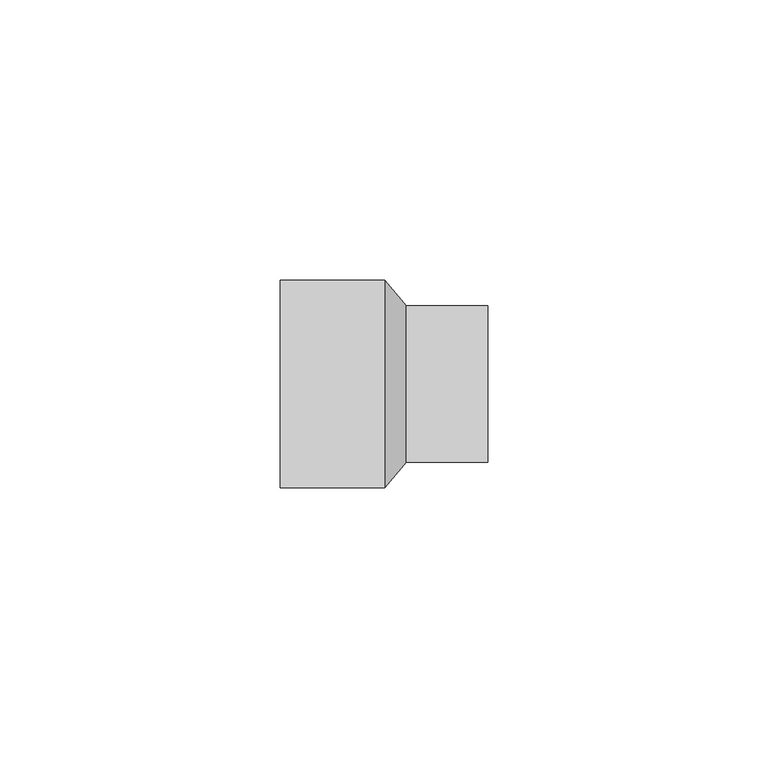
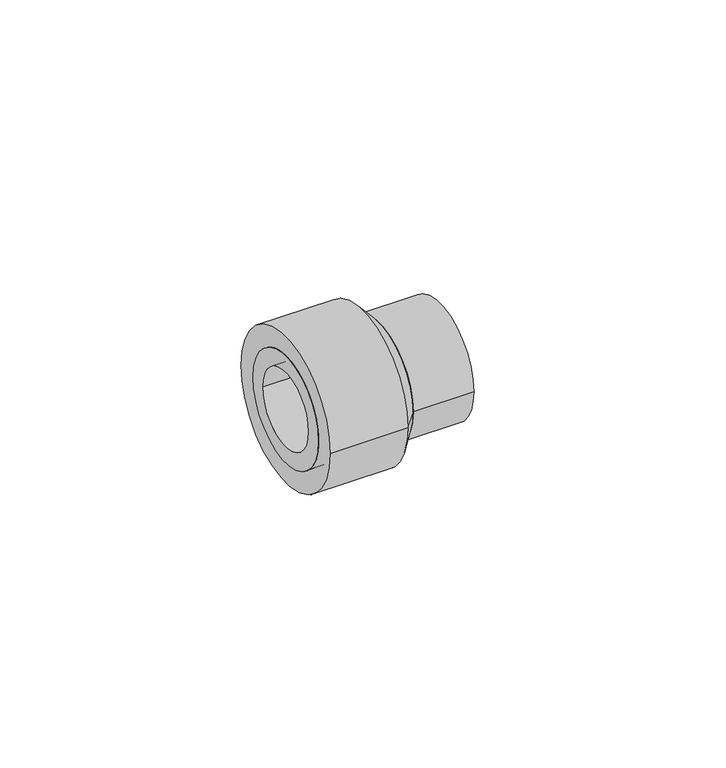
"""IFC4 building model written with IfcOpenShell, lengths in millimetres: pipe fitting geometry, 19_Муфта комбинированная BP : Белый цвет."""

from ifc_helpers import new_model, si_unit, point, frame, origin, origin_2d, place, context, project, spatial, polyline, circle_curve, trimmed, segment, composite_curve, outline, extrude, source, transform, mapped, element, save
from ifc_brep_helpers import plane_surface, revolved_surface, advanced_brep


def pipe_fitting_c594902a(model_context):
    return source(origin(), model_context, "Body", "SolidModel", [
        extrude(outline(composite_curve([segment(trimmed(circle_curve(origin_2d(), 13.5), [point((13.5, 0.0))], [point((-13.5, 0.0))], False, "CARTESIAN"), True, "CONTINUOUS"), segment(trimmed(circle_curve(origin_2d(), 13.5), [point((-13.5, 0.0))], [point((13.5, 0.0))], False, "CARTESIAN"), True, "CONTINUOUS")], self_intersect=False), holes=[composite_curve([segment(trimmed(circle_curve(origin_2d(), 9.4), [point((9.4, 0.0))], [point((-9.4, 0.0))], True, "CARTESIAN"), True, "CONTINUOUS"), segment(trimmed(circle_curve(origin_2d(), 9.4), [point((-9.4, 0.0))], [point((9.4, 0.0))], True, "CARTESIAN"), True, "CONTINUOUS")], self_intersect=False)]), frame((-18.5, 0.0, 0.0), z_axis=(1.0, 0.0, 0.0), x_axis=(0.0, 1.0, 0.0)), (0.0, 0.0, 1.0), 17.5),
        extrude(outline(composite_curve([segment(trimmed(circle_curve(origin_2d(), 14.0), [point((-14.0, 0.0))], [point((14.0, 0.0))], False, "CARTESIAN"), True, "CONTINUOUS"), segment(trimmed(circle_curve(origin_2d(), 14.0), [point((14.0, 0.0))], [point((-14.0, 0.0))], False, "CARTESIAN"), True, "CONTINUOUS")], self_intersect=False), holes=[composite_curve([segment(trimmed(circle_curve(origin_2d(), 10.0), [point((-10.0, 0.0))], [point((10.0, 0.0))], True, "CARTESIAN"), True, "CONTINUOUS"), segment(trimmed(circle_curve(origin_2d(), 10.0), [point((10.0, 0.0))], [point((-10.0, 0.0))], True, "CARTESIAN"), True, "CONTINUOUS")], self_intersect=False)]), frame((4.0, 0.0, 0.0), z_axis=(1.0, 0.0, 0.0), x_axis=(0.0, 1.0, 0.0)), (0.0, 0.0, 1.0), 14.5),
        extrude(outline(composite_curve([segment(trimmed(circle_curve(origin_2d(), 18.5), [point((-18.5, 0.0))], [point((18.5, 0.0))], False, "CARTESIAN"), True, "CONTINUOUS"), segment(trimmed(circle_curve(origin_2d(), 18.5), [point((18.5, 0.0))], [point((-18.5, 0.0))], False, "CARTESIAN"), True, "CONTINUOUS")], self_intersect=False), holes=[composite_curve([segment(trimmed(circle_curve(origin_2d(), 13.5), [point((-13.5, 0.0))], [point((13.5, 0.0))], True, "CARTESIAN"), True, "CONTINUOUS"), segment(trimmed(circle_curve(origin_2d(), 13.5), [point((13.5, 0.0))], [point((-13.5, 0.0))], True, "CARTESIAN"), True, "CONTINUOUS")], self_intersect=False)]), frame((-18.5, 0.0, 0.0), z_axis=(1.0, 0.0, 0.0), x_axis=(0.0, 1.0, 0.0)), (0.0, 0.0, 1.0), 18.6),
        advanced_brep(
        [(4.0, -14.0, 0.0), (4.0, 14.0, 0.0), (4.0, 10.0, 0.0), (4.0, -10.0, 0.0), (0.1, -18.5, 0.0), (0.1, 18.5, 0.0), (0.1, -13.5, 0.0), (0.1, 13.5, 0.0)],
        [
            (0, 1, circle_curve(frame((4.0, 0.0, 0.0), z_axis=(1.0, -2.1713905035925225e-12, 0.0), x_axis=(-2.171408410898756e-12, -1.0, 0.0)), 14.0)),
            (1, 0, circle_curve(frame((4.0, 0.0, 0.0), z_axis=(1.0, -2.1713905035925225e-12, 0.0), x_axis=(2.171408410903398e-12, 1.0, 0.0)), 14.0)),
            (2, 3, circle_curve(frame((4.0, 0.0, 0.0), z_axis=(-1.0, 0.0, 0.0), x_axis=(0.0, -1.0, 0.0)), 10.0)),
            (3, 2, circle_curve(frame((4.0, 0.0, 0.0), z_axis=(-1.0, 0.0, 0.0), x_axis=(0.0, 1.0, 0.0)), 10.0)),
            (4, 5, circle_curve(frame((0.1, 0.0, 0.0), z_axis=(-1.0, 2.1713905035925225e-12, 0.0), x_axis=(2.171408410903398e-12, 1.0, 0.0)), 18.5)),
            (5, 4, circle_curve(frame((0.1, 0.0, 0.0), z_axis=(-1.0, 2.1713905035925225e-12, 0.0), x_axis=(-2.171408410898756e-12, -1.0, 0.0)), 18.5)),
            (6, 7, circle_curve(frame((0.1, 0.0, 0.0), z_axis=(1.0, 0.0, 0.0), x_axis=(0.0, -1.0, 0.0)), 13.5)),
            (7, 6, circle_curve(frame((0.1, 0.0, 0.0), z_axis=(1.0, 0.0, 0.0), x_axis=(0.0, 1.0, 0.0)), 13.5)),
            (0, 4),
            (5, 1),
            (6, 3),
            (2, 7),
        ],
        [
            plane_surface(frame((4.0, 0.0, 0.0), z_axis=(1.0, 0.0, 0.0), x_axis=(0.0, 0.0, -1.0))),
            plane_surface(frame((0.1, 0.0, 0.0), z_axis=(-1.0, 0.0, 0.0), x_axis=(0.0, 0.0, -1.0))),
            revolved_surface(polyline([(4.0, -13.999999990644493, 0.0), (0.09999999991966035, -18.5000000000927, 0.0)]), (16.1333333, 0.0, 0.0), (-1.0, 2.1713905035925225e-12, 0.0)),
            revolved_surface(polyline([(4.000000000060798, 13.999999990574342, 0.0), (0.10000000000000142, 18.5, 0.0)]), (16.1333333, 0.0, 0.0), (-1.0, 2.1713905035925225e-12, 0.0)),
            revolved_surface(polyline([(0.09999999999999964, -13.5, 0.0), (4.0, -9.99999999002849, 0.0)]), (15.1428571, 0.0, 0.0), (-1.0, 0.0, 0.0)),
        ],
        [
            (0, [[1, 2], [3, 4]]),
            (1, [[5, 6], [7, 8]]),
            (2, [[-1, 9, -6, 10]]),
            (3, [[-2, -10, -5, -9]]),
            (4, [[11, -3, 12, -7]]),
            (4, [[-11, -8, -12, -4]]),
        ],
    ),
    ])


if __name__ == "__main__":
    model = new_model("IFC4")
    model_context = context("Model", 3, world=origin())
    ifc_project = project(units=[si_unit("LENGTHUNIT", "METRE", prefix="MILLI")], contexts=[model_context])
    site = spatial("IfcSite", under=ifc_project)
    building = spatial("IfcBuilding", under=site)
    placement = place(None, origin())
    pipe_fitting_shape = pipe_fitting_c594902a(model_context)
    element("IfcPipeFitting", 1, ObjectType="19_Муфта комбинированная BP : Белый цвет", at=placement, inside=building, context=model_context, shape_type="MappedRepresentation", body=[
        mapped(pipe_fitting_shape, transform((0.0, 0.0, 0.0), x_axis=(1.0, 0.0, 0.0), y_axis=(0.0, 1.0, 0.0), z_axis=(0.0, 0.0, 1.0))),
    ])
    save(model, "model.ifc")
